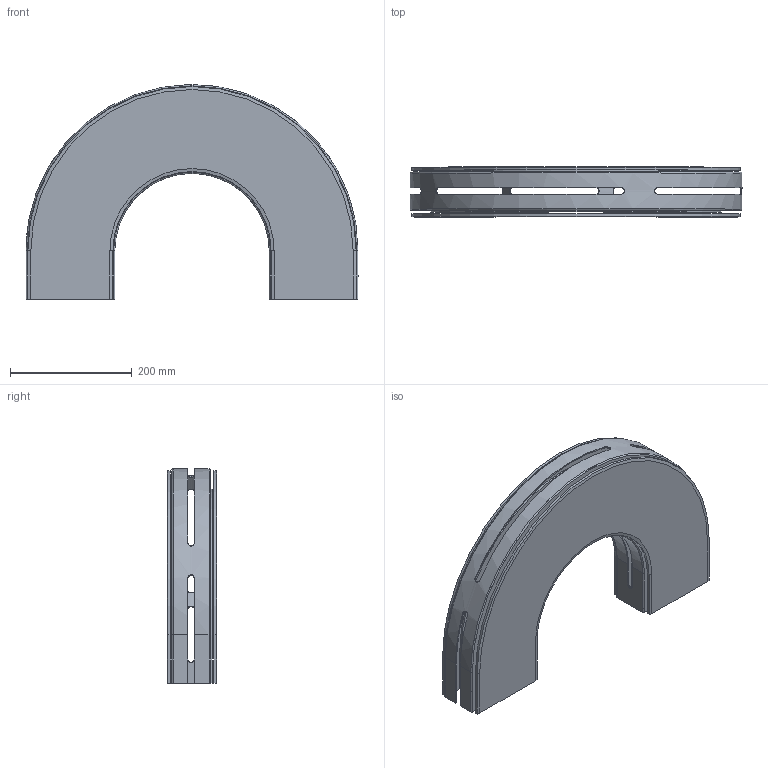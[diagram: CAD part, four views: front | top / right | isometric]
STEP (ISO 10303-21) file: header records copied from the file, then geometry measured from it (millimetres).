
FILE_DESCRIPTION((''),'2;1');
FILE_NAME('C:\Vault Klient\Projekt\Koncept konstruktion\Serie 540 Balk\540-5170.stp','2010-11-24T10:45:56',('Mathias'),(''),'Autodesk Inventor 2011','Autodesk Inventor 2011','');
FILE_SCHEMA(('AUTOMOTIVE_DESIGN { 1 0 10303 214 1 1 1 1 }'));
Length unit declared in the file: millimetre
Products named in the file (1): 540-5170
Bounding box: 546 x 82 x 353 mm (x, y, z)
Volume: 1779217.7 mm3; surface area: 916313.5 mm2
Topology: 2 solids, 2 shells, 171 faces, 482 edges, 316 vertices
Faces by surface type: plane 111, cylinder 28, bspline 22, cone 6, torus 4
Entity records: 6078 total; most frequent: CARTESIAN_POINT 1620, ORIENTED_EDGE 964, DIRECTION 830, EDGE_CURVE 482, VECTOR 346, LINE 346, VERTEX_POINT 316, AXIS2_PLACEMENT_3D 242
